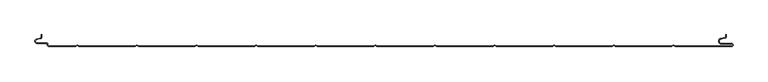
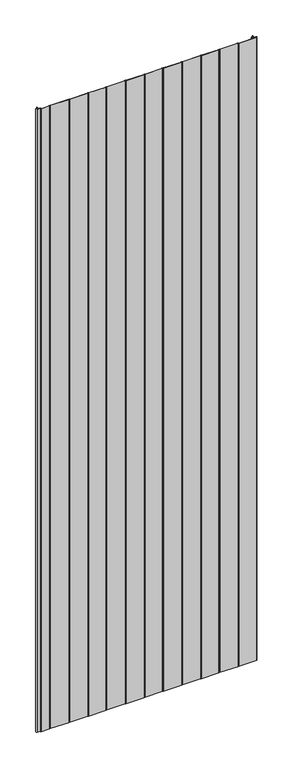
"""IFC4 building model written with IfcOpenShell, lengths in millimetres: plate geometry, PM1_Curtain-Panel_Perfil-Frigorífico : ACH_PM1_Panel-Acústico-Sectorización_60M."""

import ifcopenshell
import ifcopenshell.guid

model = None  # the IFC model being written
_history = None  # IfcOwnerHistory: only IFC2X3 demands one
_inside = {}  # id of a spatial element -> (the spatial element, [elements in it])
_under = {}  # id of a project, library or spatial element -> (it, [spatial elements below it])
_declared = {}  # id of a project -> (the project, [libraries it declares])
_typed = {}  # id of a type object -> (the type object, [elements of that type])
_made_of = {}  # id of a material, layer set ... -> (it, [elements and type objects made of it])


def new_model(schema):
    """Start an empty IFC model of exactly this schema.

    Asked for "IFC4X3", IfcOpenShell would pick the latest addendum, in which some entities
    have other attributes; the version numbers below select the first issue.
    IFC2X3 requires an IfcOwnerHistory on every rooted entity: one is made here for all.
    """
    global model, _history
    if schema == "IFC4X3":
        model = ifcopenshell.file(schema_version=(4, 3, 0, 0))
    else:
        model = ifcopenshell.file(schema=schema)
    _inside.clear()
    _under.clear()
    _declared.clear()
    _typed.clear()
    _made_of.clear()
    _history = None
    if model.schema == "IFC2X3":
        org = make("IfcOrganization", Name="unknown")
        user = make(
            "IfcPersonAndOrganization",
            ThePerson=make("IfcPerson", FamilyName="unknown"),
            TheOrganization=org,
        )
        app = make(
            "IfcApplication",
            ApplicationDeveloper=org,
            Version="unknown",
            ApplicationFullName="unknown",
            ApplicationIdentifier="unknown",
        )
        _history = make(
            "IfcOwnerHistory",
            OwningUser=user,
            OwningApplication=app,
            ChangeAction="ADDED",
            CreationDate=0,
        )
    return model


def make(cls, **values):
    """One entity of the class cls with the attributes given. An attribute that is None is left unset."""
    return model.create_entity(
        cls, **{name: value for name, value in values.items() if value is not None}
    )


def rooted(cls, **values):
    """An entity with a GlobalId (a new one), such as an element, a storey or a relation."""
    return make(cls, GlobalId=ifcopenshell.guid.new(), OwnerHistory=_history, **values)


def si_unit(unit_type, name, prefix=None):
    """IfcSIUnit, for example si_unit("LENGTHUNIT", "METRE", prefix="MILLI")."""
    return make("IfcSIUnit", UnitType=unit_type, Prefix=prefix, Name=name)


def assignment(units):
    """IfcUnitAssignment: the units of a project."""
    return None if units is None else make("IfcUnitAssignment", Units=units)


def point(xyz):
    """IfcCartesianPoint."""
    return None if xyz is None else make("IfcCartesianPoint", Coordinates=xyz)


def direction(xyz):
    """IfcDirection."""
    return None if xyz is None else make("IfcDirection", DirectionRatios=xyz)


def frame(location, z_axis=None, x_axis=None):
    """IfcAxis2Placement3D, a coordinate frame: its origin and axes. An axis left out is left unset."""
    return make(
        "IfcAxis2Placement3D",
        Location=point(location),
        Axis=direction(z_axis),
        RefDirection=direction(x_axis),
    )


def origin():
    """The frame at (0, 0, 0) with its axes left unset."""
    return frame((0.0, 0.0, 0.0))


def place(relative_to, where):
    """IfcLocalPlacement: puts the frame where relative to a parent placement (None: the world)."""
    return make(
        "IfcLocalPlacement", PlacementRelTo=relative_to, RelativePlacement=where
    )


def context(
    kind, dimensions, precision=None, world=None, true_north=None, identifier=None
):
    """IfcGeometricRepresentationContext, for example the 3D "Model" context."""
    return make(
        "IfcGeometricRepresentationContext",
        ContextIdentifier=identifier,
        ContextType=kind,
        CoordinateSpaceDimension=dimensions,
        Precision=precision,
        WorldCoordinateSystem=world,
        TrueNorth=true_north,
    )


def project(units=None, contexts=None):
    """IfcProject with its units and contexts."""
    return rooted(
        "IfcProject",
        Name="project",
        RepresentationContexts=contexts,
        UnitsInContext=assignment(units),
    )


def spatial(cls, under=None, at=None, **own):
    """A site, building, storey or space (cls), placed at a placement, below another one or the project."""
    s = rooted(cls, ObjectPlacement=at, **own)
    if under is not None:
        _under.setdefault(under.id(), (under, []))[1].append(s)
    return s


def polyline(points):
    """IfcPolyline through the points."""
    return make("IfcPolyline", Points=[point(p) for p in points])


def circle_curve(where, radius):
    """IfcCircle in the frame where."""
    return make("IfcCircle", Position=where, Radius=radius)


def shape(context_of_items, identifier, shape_type, items):
    """IfcShapeRepresentation: the items that make up one representation, for example the "Body"."""
    return make(
        "IfcShapeRepresentation",
        ContextOfItems=context_of_items,
        RepresentationIdentifier=identifier,
        RepresentationType=shape_type,
        Items=items,
    )


def source(mapping_origin, context_of_items, identifier, shape_type, items):
    """IfcRepresentationMap: a shape defined once, which mapped items show again and again."""
    return make(
        "IfcRepresentationMap",
        MappingOrigin=mapping_origin,
        MappedRepresentation=shape(context_of_items, identifier, shape_type, items),
    )


def transform(
    local_origin,
    x_axis=None,
    y_axis=None,
    z_axis=None,
    scale=None,
    scale2=None,
    scale3=None,
    uniform=True,
):
    """IfcCartesianTransformationOperator3D, or its non-uniform kind. x_axis, y_axis, z_axis: its Axis1, 2, 3."""
    if uniform:
        return make(
            "IfcCartesianTransformationOperator3D",
            Axis1=direction(x_axis),
            Axis2=direction(y_axis),
            LocalOrigin=point(local_origin),
            Scale=scale,
            Axis3=direction(z_axis),
        )
    return make(
        "IfcCartesianTransformationOperator3DnonUniform",
        Axis1=direction(x_axis),
        Axis2=direction(y_axis),
        LocalOrigin=point(local_origin),
        Scale=scale,
        Axis3=direction(z_axis),
        Scale2=scale2,
        Scale3=scale3,
    )


def mapped(mapping_source, mapping_target):
    """IfcMappedItem: shows the shape of a source again, moved by a transform."""
    return make(
        "IfcMappedItem", MappingSource=mapping_source, MappingTarget=mapping_target
    )


def made_of(thing, what):
    """Note that an element or type object is made of a material, layer set ...; save() writes the relation."""
    if what is not None:
        _made_of.setdefault(what.id(), (what, []))[1].append(thing)
    return thing


def element(
    cls,
    number,
    at=None,
    inside=None,
    cuts=None,
    type_object=None,
    material=None,
    context=None,
    identifier="Body",
    shape_type=None,
    held_by="IfcProductDefinitionShape",
    body=None,
    shapes=None,
    **own,
):
    """One element of the class cls, such as IfcWall. Its Tag is "e" and its number.

    at: its placement. inside: the storey or other place that contains it. cuts: it is an
    opening in that element (IfcRelVoidsElement). A single representation is given by context,
    identifier, shape_type and body (its items); several are given by shapes. held_by: the class
    of the entity that holds the representations. save() writes the other relations.
    """
    e = rooted(cls, Tag="e%d" % number, ObjectPlacement=at, **own)
    if body is not None:
        shapes = [shape(context, identifier, shape_type, body)]
    if shapes is not None:
        e.Representation = make(held_by, Representations=shapes)
    if inside is not None:
        _inside.setdefault(inside.id(), (inside, []))[1].append(e)
    if cuts is not None:
        rooted(
            "IfcRelVoidsElement", RelatingBuildingElement=cuts, RelatedOpeningElement=e
        )
    if type_object is not None:
        _typed.setdefault(type_object.id(), (type_object, []))[1].append(e)
    return made_of(e, material)


def aggregate(whole, parts):
    """IfcRelAggregates: a whole, such as a stair, and the parts it consists of."""
    return rooted("IfcRelAggregates", RelatingObject=whole, RelatedObjects=parts)


def save(model, path):
    """Write the relations noted so far, then the file.

    IfcRelAggregates (storeys below a building ...), IfcRelContainedInSpatialStructure (elements
    in a storey), IfcRelDefinesByType, IfcRelAssociatesMaterial and IfcRelDeclares: one each for
    every whole, place, type object, material and project.
    """
    for whole, parts in _under.values():
        aggregate(whole, parts)
    for where, things in _inside.values():
        rooted(
            "IfcRelContainedInSpatialStructure",
            RelatedElements=things,
            RelatingStructure=where,
        )
    for kind, things in _typed.values():
        rooted("IfcRelDefinesByType", RelatedObjects=things, RelatingType=kind)
    for what, things in _made_of.values():
        rooted("IfcRelAssociatesMaterial", RelatedObjects=things, RelatingMaterial=what)
    for by, libraries in _declared.values():
        rooted("IfcRelDeclares", RelatingContext=by, RelatedDefinitions=libraries)
    model.write(path)


def plane_surface(at):
    """IfcPlane: the flat surface through the origin of the frame at, square to its z axis."""
    return make("IfcPlane", Position=at)


def cylinder_surface(at, radius):
    """IfcCylindricalSurface: all points at the distance radius from the z axis of the frame at."""
    return make("IfcCylindricalSurface", Position=at, Radius=radius)


def revolved_surface(curve, axis_point, axis_direction):
    """IfcSurfaceOfRevolution: the curve turned about the line through axis_point along axis_direction."""
    return make(
        "IfcSurfaceOfRevolution",
        SweptCurve=make("IfcArbitraryOpenProfileDef", ProfileType="CURVE", Curve=curve),
        AxisPosition=make("IfcAxis1Placement", Location=point(axis_point), Axis=direction(axis_direction)),
    )


def advanced_brep(points, edges, surfaces, faces):
    """IfcAdvancedBrep: a solid bounded by faces that lie on surfaces and meet in shared edges.

    An edge is (start, end): straight between two places in points (the first is 0);
    or (start, end, curve); or (start, end, curve, False) where it runs against its curve.
    A face is (place in surfaces, loops), or (place, loops, False) where it looks against
    its surface's normal. A loop lists edges by number (the first is 1), with a minus sign
    where the edge is run from its end to its start. The first loop is the outer one.
    """
    corners = [point(p) for p in points]
    vertices = [make("IfcVertexPoint", VertexGeometry=c) for c in corners]
    made = []
    for start, end, *more in edges:
        made.append(
            make(
                "IfcEdgeCurve",
                EdgeStart=vertices[start],
                EdgeEnd=vertices[end],
                EdgeGeometry=more[0] if more else make("IfcPolyline", Points=[corners[start], corners[end]]),
                SameSense=more[1] if len(more) > 1 else True,
            )
        )
    hull = []
    for where, loops, *sense in faces:
        bounds = []
        for j, loop in enumerate(loops):
            ring = [make("IfcOrientedEdge", EdgeElement=made[abs(k) - 1], Orientation=k > 0) for k in loop]
            bounds.append(
                make(
                    "IfcFaceOuterBound" if j == 0 else "IfcFaceBound",
                    Bound=make("IfcEdgeLoop", EdgeList=ring),
                    Orientation=True,
                )
            )
        hull.append(make("IfcAdvancedFace", Bounds=bounds, FaceSurface=surfaces[where], SameSense=sense[0] if sense else True))
    return make("IfcAdvancedBrep", Outer=make("IfcClosedShell", CfsFaces=hull))


def plate_b0a39715(model_context):
    return source(origin(), model_context, "Body", "AdvancedBrep", [
        advanced_brep(
        [(-575.0, -44.121443, 3500.0), (-576.5500978, -46.0701831, 3500.0), (-582.7098239, -47.492268, 3500.0), (-581.9, -54.6, 3500.0), (-566.4, -54.6, 3500.0), (-564.4, -56.6, 3500.0), (-564.4, -58.0, 3500.0), (-562.4, -60.0, 3500.0), (-517.0999995, -60.0, 3500.0), (-514.4, -58.4411545, 3500.0), (-511.7000005, -60.0, 3500.0), (-417.0999995, -60.0, 3500.0), (-414.4, -58.4411545, 3500.0), (-411.7000005, -60.0, 3500.0), (-317.0999995, -60.0, 3500.0), (-314.4, -58.4411545, 3500.0), (-311.7000005, -60.0, 3500.0), (-217.0999995, -60.0, 3500.0), (-214.4, -58.4411545, 3500.0), (-211.7000005, -60.0, 3500.0), (-117.0999995, -60.0, 3500.0), (-114.4, -58.4411545, 3500.0), (-111.7000005, -60.0, 3500.0), (-17.0999995, -60.0, 3500.0), (-14.4, -58.4411545, 3500.0), (-11.7000005, -60.0, 3500.0), (82.9000005, -60.0, 3500.0), (85.6, -58.4411545, 3500.0), (88.2999995, -60.0, 3500.0), (182.9000005, -60.0, 3500.0), (185.6, -58.4411545, 3500.0), (188.2999995, -60.0, 3500.0), (282.9000005, -60.0, 3500.0), (285.6, -58.4411545, 3500.0), (288.2999995, -60.0, 3500.0), (382.9000005, -60.0, 3500.0), (385.6, -58.4411545, 3500.0), (388.2999995, -60.0, 3500.0), (482.9000005, -60.0, 3500.0), (485.6, -58.4411545, 3500.0), (488.2999995, -60.0, 3500.0), (583.1, -60.0, 3500.0), (585.6, -57.5, 3500.0), (583.1, -55.0, 3500.0), (566.1, -55.0, 3500.0), (565.405407, -47.060769, 3500.0), (571.8514855, -45.9241509, 3500.0), (574.0, -43.3636508, 3500.0), (574.0, -40.0, 3500.0), (573.2, -40.0, 3500.0), (573.2, -43.3636508, 3500.0), (571.7125669, -45.1363047, 3500.0), (565.2664884, -46.2729228, 3500.0), (566.1, -55.8, 3500.0), (583.1, -55.8, 3500.0), (583.1, -59.2, 3500.0), (488.5143588, -59.2, 3500.0), (485.6, -57.517394, 3500.0), (482.6856412, -59.2, 3500.0), (388.5143588, -59.2, 3500.0), (385.6, -57.517394, 3500.0), (382.6856412, -59.2, 3500.0), (288.5143588, -59.2, 3500.0), (285.6, -57.517394, 3500.0), (282.6856412, -59.2, 3500.0), (188.5143588, -59.2, 3500.0), (185.6, -57.517394, 3500.0), (182.6856412, -59.2, 3500.0), (88.5143588, -59.2, 3500.0), (85.6, -57.517394, 3500.0), (82.6856412, -59.2, 3500.0), (-11.4856412, -59.2, 3500.0), (-14.4, -57.517394, 3500.0), (-17.3143588, -59.2, 3500.0), (-111.4856412, -59.2, 3500.0), (-114.4, -57.517394, 3500.0), (-117.3143588, -59.2, 3500.0), (-211.4856412, -59.2, 3500.0), (-214.4, -57.517394, 3500.0), (-217.3143588, -59.2, 3500.0), (-311.4856412, -59.2, 3500.0), (-314.4, -57.517394, 3500.0), (-317.3143588, -59.2, 3500.0), (-411.4856412, -59.2, 3500.0), (-414.4, -57.517394, 3500.0), (-417.3143588, -59.2, 3500.0), (-511.4856412, -59.2, 3500.0), (-514.4, -57.517394, 3500.0), (-517.3143588, -59.2, 3500.0), (-562.4, -59.2, 3500.0), (-563.6, -58.0, 3500.0), (-563.6, -56.6, 3500.0), (-566.4, -53.8, 3500.0), (-581.9, -53.8, 3500.0), (-582.529863, -48.2717638, 3500.0), (-576.370137, -46.849679, 3500.0), (-574.2, -44.121443, 3500.0), (-574.2, -40.0, 3500.0), (-575.0, -40.0, 3500.0), (-575.0, -44.121443, 0.0), (-575.0, -40.0, 0.0), (-574.2, -40.0, 0.0), (-574.2, -44.121443, 0.0), (-576.370137, -46.8496792, 0.0), (-582.529863, -48.271764, 0.0), (-581.9, -53.8, 0.0), (-566.4, -53.8, 0.0), (-563.6, -56.6, 0.0), (-563.6, -58.0, 0.0), (-562.4, -59.2, 0.0), (-517.3143588, -59.2, 0.0), (-514.4, -57.517394, 0.0), (-511.4856412, -59.2, 0.0), (-417.3143588, -59.2, 0.0), (-414.4, -57.517394, 0.0), (-411.4856412, -59.2, 0.0), (-317.3143588, -59.2, 0.0), (-314.4, -57.517394, 0.0), (-311.4856412, -59.2, 0.0), (-217.3143588, -59.2, 0.0), (-214.4, -57.517394, 0.0), (-211.4856412, -59.2, 0.0), (-117.3143588, -59.2, 0.0), (-114.4, -57.517394, 0.0), (-111.4856412, -59.2, 0.0), (-17.3143588, -59.2, 0.0), (-14.4, -57.517394, 0.0), (-11.4856412, -59.2, 0.0), (82.6856412, -59.2, 0.0), (85.6, -57.517394, 0.0), (88.5143588, -59.2, 0.0), (182.6856412, -59.2, 0.0), (185.6, -57.517394, 0.0), (188.5143588, -59.2, 0.0), (282.6856412, -59.2, 0.0), (285.6, -57.517394, 0.0), (288.5143588, -59.2, 0.0), (382.6856412, -59.2, 0.0), (385.6, -57.517394, 0.0), (388.5143588, -59.2, 0.0), (482.6856412, -59.2, 0.0), (485.6, -57.517394, 0.0), (488.5143588, -59.2, 0.0), (583.1, -59.2, 0.0), (583.1, -55.8, 0.0), (566.1, -55.8, 0.0), (565.2664884, -46.2729229, 0.0), (571.7125669, -45.1363047, 0.0), (573.2, -43.3636508, 0.0), (573.2, -40.0, 0.0), (574.0, -40.0, 0.0), (574.0, -43.3636508, 0.0), (571.8514855, -45.9241509, 0.0), (565.405407, -47.060769, 0.0), (566.1, -55.0, 0.0), (583.1, -55.0, 0.0), (585.6, -57.5, 0.0), (583.1, -60.0, 0.0), (488.2999995, -60.0, 0.0), (485.6, -58.4411545, 0.0), (482.9000005, -60.0, 0.0), (388.2999995, -60.0, 0.0), (385.6, -58.4411545, 0.0), (382.9000005, -60.0, 0.0), (288.2999995, -60.0, 0.0), (285.6, -58.4411545, 0.0), (282.9000005, -60.0, 0.0), (188.2999995, -60.0, 0.0), (185.6, -58.4411545, 0.0), (182.9000005, -60.0, 0.0), (88.2999995, -60.0, 0.0), (85.6, -58.4411545, 0.0), (82.9000005, -60.0, 0.0), (-11.7000005, -60.0, 0.0), (-14.4, -58.4411545, 0.0), (-17.0999995, -60.0, 0.0), (-111.7000005, -60.0, 0.0), (-114.4, -58.4411545, 0.0), (-117.0999995, -60.0, 0.0), (-211.7000005, -60.0, 0.0), (-214.4, -58.4411545, 0.0), (-217.0999995, -60.0, 0.0), (-311.7000005, -60.0, 0.0), (-314.4, -58.4411545, 0.0), (-317.0999995, -60.0, 0.0), (-411.7000005, -60.0, 0.0), (-414.4, -58.4411545, 0.0), (-417.0999995, -60.0, 0.0), (-511.7000005, -60.0, 0.0), (-514.4, -58.4411545, 0.0), (-517.0999995, -60.0, 0.0), (-562.4, -60.0, 0.0), (-564.4, -58.0, 0.0), (-564.4, -56.6, 0.0), (-566.4, -54.6, 0.0), (-581.9, -54.6, 0.0), (-582.7098239, -47.4922678, 0.0), (-576.5500979, -46.070183, 0.0)],
        [
            (0, 1, circle_curve(frame((-577.0, -44.121443, 3500.0), z_axis=(0.0, 0.0, -1.0), x_axis=(1.0, 0.0, 0.0)), 2.0)),
            (1, 2),
            (2, 3, circle_curve(frame((-581.9, -51.0, 3500.0), z_axis=(0.0, 0.0, 1.0), x_axis=(1.0, 0.0, 0.0)), 3.6)),
            (3, 4),
            (4, 5, circle_curve(frame((-566.4, -56.6, 3500.0), z_axis=(0.0, 0.0, -1.0), x_axis=(1.0, 0.0, 0.0)), 2.0)),
            (5, 6),
            (6, 7, circle_curve(frame((-562.4, -58.0, 3500.0), z_axis=(0.0, 0.0, 1.0), x_axis=(1.0, 0.0, 0.0)), 2.0)),
            (7, 8),
            (8, 9),
            (9, 10),
            (10, 11),
            (11, 12),
            (12, 13),
            (13, 14),
            (14, 15),
            (15, 16),
            (16, 17),
            (17, 18),
            (18, 19),
            (19, 20),
            (20, 21),
            (21, 22),
            (22, 23),
            (23, 24),
            (24, 25),
            (25, 26),
            (26, 27),
            (27, 28),
            (28, 29),
            (29, 30),
            (30, 31),
            (31, 32),
            (32, 33),
            (33, 34),
            (34, 35),
            (35, 36),
            (36, 37),
            (37, 38),
            (38, 39),
            (39, 40),
            (40, 41),
            (41, 42, circle_curve(frame((583.1, -57.5, 3500.0), z_axis=(0.0, 0.0, 1.0), x_axis=(1.0, 0.0, 0.0)), 2.5)),
            (42, 43, circle_curve(frame((583.1, -57.5, 3500.0), z_axis=(0.0, 0.0, 1.0), x_axis=(1.0, 0.0, 0.0)), 2.5)),
            (43, 44),
            (44, 45, circle_curve(frame((566.1, -51.0, 3500.0), z_axis=(0.0, 0.0, -1.0), x_axis=(1.0, 0.0, 0.0)), 4.0)),
            (45, 46),
            (46, 47, circle_curve(frame((571.4, -43.3636508, 3500.0), z_axis=(0.0, 0.0, 1.0), x_axis=(1.0, 0.0, 0.0)), 2.6)),
            (47, 48),
            (48, 49),
            (49, 50),
            (50, 51, circle_curve(frame((571.4, -43.3636508, 3500.0), z_axis=(0.0, 0.0, -1.0), x_axis=(1.0, 0.0, 0.0)), 1.8)),
            (51, 52),
            (52, 53, circle_curve(frame((566.1, -51.0, 3500.0), z_axis=(0.0, 0.0, 1.0), x_axis=(1.0, 0.0, 0.0)), 4.8)),
            (53, 54),
            (54, 55, circle_curve(frame((583.1, -57.5, 3500.0), z_axis=(0.0, 0.0, -1.0), x_axis=(1.0, 0.0, 0.0)), 1.7)),
            (55, 56),
            (56, 57),
            (57, 58),
            (58, 59),
            (59, 60),
            (60, 61),
            (61, 62),
            (62, 63),
            (63, 64),
            (64, 65),
            (65, 66),
            (66, 67),
            (67, 68),
            (68, 69),
            (69, 70),
            (70, 71),
            (71, 72),
            (72, 73),
            (73, 74),
            (74, 75),
            (75, 76),
            (76, 77),
            (77, 78),
            (78, 79),
            (79, 80),
            (80, 81),
            (81, 82),
            (82, 83),
            (83, 84),
            (84, 85),
            (85, 86),
            (86, 87),
            (87, 88),
            (88, 89),
            (89, 90, circle_curve(frame((-562.4, -58.0, 3500.0), z_axis=(0.0, 0.0, -1.0), x_axis=(1.0, 0.0, 0.0)), 1.2)),
            (90, 91),
            (91, 92, circle_curve(frame((-566.4, -56.6, 3500.0), z_axis=(0.0, 0.0, 1.0), x_axis=(1.0, 0.0, 0.0)), 2.8)),
            (92, 93),
            (93, 94, circle_curve(frame((-581.9, -51.0, 3500.0), z_axis=(0.0, 0.0, -1.0), x_axis=(1.0, 0.0, 0.0)), 2.8)),
            (94, 95),
            (95, 96, circle_curve(frame((-577.0, -44.121443, 3500.0), z_axis=(0.0, 0.0, 1.0), x_axis=(1.0, 0.0, 0.0)), 2.8)),
            (96, 97),
            (97, 98),
            (98, 0),
            (99, 100),
            (100, 101),
            (101, 102),
            (102, 103, circle_curve(frame((-577.0, -44.121443, 0.0), z_axis=(0.0, 0.0, -1.0), x_axis=(1.0, 0.0, 0.0)), 2.8)),
            (103, 104),
            (104, 105, circle_curve(frame((-581.9, -51.0, 0.0), z_axis=(0.0, 0.0, 1.0), x_axis=(1.0, 0.0, 0.0)), 2.8)),
            (105, 106),
            (106, 107, circle_curve(frame((-566.4, -56.6, 0.0), z_axis=(0.0, 0.0, -1.0), x_axis=(1.0, 0.0, 0.0)), 2.8)),
            (107, 108),
            (108, 109, circle_curve(frame((-562.4, -58.0, 0.0), z_axis=(0.0, 0.0, 1.0), x_axis=(1.0, 0.0, 0.0)), 1.2)),
            (109, 110),
            (110, 111),
            (111, 112),
            (112, 113),
            (113, 114),
            (114, 115),
            (115, 116),
            (116, 117),
            (117, 118),
            (118, 119),
            (119, 120),
            (120, 121),
            (121, 122),
            (122, 123),
            (123, 124),
            (124, 125),
            (125, 126),
            (126, 127),
            (127, 128),
            (128, 129),
            (129, 130),
            (130, 131),
            (131, 132),
            (132, 133),
            (133, 134),
            (134, 135),
            (135, 136),
            (136, 137),
            (137, 138),
            (138, 139),
            (139, 140),
            (140, 141),
            (141, 142),
            (142, 143),
            (143, 144, circle_curve(frame((583.1, -57.5, 0.0), z_axis=(0.0, 0.0, 1.0), x_axis=(1.0, 0.0, 0.0)), 1.7)),
            (144, 145),
            (145, 146, circle_curve(frame((566.1, -51.0, 0.0), z_axis=(0.0, 0.0, -1.0), x_axis=(1.0, 0.0, 0.0)), 4.8)),
            (146, 147),
            (147, 148, circle_curve(frame((571.4, -43.3636508, 0.0), z_axis=(0.0, 0.0, 1.0), x_axis=(1.0, 0.0, 0.0)), 1.8)),
            (148, 149),
            (149, 150),
            (150, 151),
            (151, 152, circle_curve(frame((571.4, -43.3636508, 0.0), z_axis=(0.0, 0.0, -1.0), x_axis=(1.0, 0.0, 0.0)), 2.6)),
            (152, 153),
            (153, 154, circle_curve(frame((566.1, -51.0, 0.0), z_axis=(0.0, 0.0, 1.0), x_axis=(1.0, 0.0, 0.0)), 4.0)),
            (154, 155),
            (155, 156, circle_curve(frame((583.1, -57.5, 0.0), z_axis=(0.0, 0.0, -1.0), x_axis=(1.0, 0.0, 0.0)), 2.5)),
            (156, 157, circle_curve(frame((583.1, -57.5, 0.0), z_axis=(0.0, 0.0, -1.0), x_axis=(1.0, 0.0, 0.0)), 2.5)),
            (157, 158),
            (158, 159),
            (159, 160),
            (160, 161),
            (161, 162),
            (162, 163),
            (163, 164),
            (164, 165),
            (165, 166),
            (166, 167),
            (167, 168),
            (168, 169),
            (169, 170),
            (170, 171),
            (171, 172),
            (172, 173),
            (173, 174),
            (174, 175),
            (175, 176),
            (176, 177),
            (177, 178),
            (178, 179),
            (179, 180),
            (180, 181),
            (181, 182),
            (182, 183),
            (183, 184),
            (184, 185),
            (185, 186),
            (186, 187),
            (187, 188),
            (188, 189),
            (189, 190),
            (190, 191),
            (191, 192, circle_curve(frame((-562.4, -58.0, 0.0), z_axis=(0.0, 0.0, -1.0), x_axis=(1.0, 0.0, 0.0)), 2.0)),
            (192, 193),
            (193, 194, circle_curve(frame((-566.4, -56.6, 0.0), z_axis=(0.0, 0.0, 1.0), x_axis=(1.0, 0.0, 0.0)), 2.0)),
            (194, 195),
            (195, 196, circle_curve(frame((-581.9, -51.0, 0.0), z_axis=(0.0, 0.0, -1.0), x_axis=(1.0, 0.0, 0.0)), 3.6)),
            (196, 197),
            (197, 99, circle_curve(frame((-577.0, -44.121443, 0.0), z_axis=(0.0, 0.0, 1.0), x_axis=(1.0, 0.0, 0.0)), 2.0)),
            (0, 99),
            (197, 1),
            (196, 2),
            (195, 3),
            (194, 4),
            (193, 5),
            (192, 6),
            (191, 7),
            (190, 8),
            (189, 9),
            (188, 10),
            (187, 11),
            (186, 12),
            (185, 13),
            (184, 14),
            (183, 15),
            (182, 16),
            (181, 17),
            (180, 18),
            (179, 19),
            (178, 20),
            (177, 21),
            (176, 22),
            (175, 23),
            (174, 24),
            (173, 25),
            (172, 26),
            (171, 27),
            (170, 28),
            (169, 29),
            (168, 30),
            (167, 31),
            (166, 32),
            (165, 33),
            (164, 34),
            (163, 35),
            (162, 36),
            (161, 37),
            (160, 38),
            (159, 39),
            (158, 40),
            (157, 41),
            (155, 43),
            (154, 44),
            (153, 45),
            (152, 46),
            (151, 47),
            (150, 48),
            (149, 49),
            (148, 50),
            (147, 51),
            (146, 52),
            (145, 53),
            (144, 54),
            (143, 55),
            (142, 56),
            (141, 57),
            (140, 58),
            (139, 59),
            (138, 60),
            (137, 61),
            (136, 62),
            (135, 63),
            (134, 64),
            (133, 65),
            (132, 66),
            (131, 67),
            (130, 68),
            (129, 69),
            (128, 70),
            (127, 71),
            (126, 72),
            (125, 73),
            (124, 74),
            (123, 75),
            (122, 76),
            (121, 77),
            (120, 78),
            (119, 79),
            (118, 80),
            (117, 81),
            (116, 82),
            (115, 83),
            (114, 84),
            (113, 85),
            (112, 86),
            (111, 87),
            (110, 88),
            (109, 89),
            (108, 90),
            (107, 91),
            (106, 92),
            (105, 93),
            (104, 94),
            (103, 95),
            (102, 96),
            (101, 97),
            (100, 98),
        ],
        [
            plane_surface(frame((-575.0, -60.0, 3500.0), z_axis=(0.0, 0.0, 1.0), x_axis=(0.0, 1.0, 0.0))),
            plane_surface(frame((-575.0, -60.0, 0.0), z_axis=(0.0, 0.0, -1.0), x_axis=(0.0, 1.0, 0.0))),
            revolved_surface(polyline([(-575.0, -44.121443, 0.0), (-575.0, -44.121443, 3500.0)]), (-577.0, -44.121443, 3500.0), (0.0, 0.0, -1.0)),
            plane_surface(frame((-576.5500979, -46.070183, 3500.0), z_axis=(-0.22495108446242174, 0.9743700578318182, 0.0), x_axis=(0.0, 0.0, -1.0))),
            cylinder_surface(frame((-581.9, -51.0, 3500.0), z_axis=(0.0, 0.0, 1.0), x_axis=(1.0, 0.0, 0.0)), 3.6),
            plane_surface(frame((-581.9, -54.6, 3500.0), z_axis=(0.0, -1.0, 0.0), x_axis=(0.0, 0.0, -1.0))),
            revolved_surface(polyline([(-564.4, -56.6, 0.0), (-564.4, -56.6, 3500.0)]), (-566.4, -56.6, 3500.0), (0.0, 0.0, -1.0)),
            plane_surface(frame((-564.4, -56.6, 3500.0), z_axis=(-1.0, 0.0, 0.0), x_axis=(0.0, 0.0, -1.0))),
            cylinder_surface(frame((-562.4, -58.0, 3500.0), z_axis=(0.0, 0.0, 1.0), x_axis=(1.0, 0.0, 0.0)), 2.0),
            plane_surface(frame((-562.4, -60.0, 3500.0), z_axis=(0.0, -1.0, 0.0), x_axis=(0.0, 0.0, -1.0))),
            plane_surface(frame((-517.0999995, -60.0, 3500.0), z_axis=(0.5000000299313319, -0.8660253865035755, 0.0), x_axis=(0.0, 0.0, -1.0))),
            plane_surface(frame((-514.4, -58.4411545, 3500.0), z_axis=(-0.5000000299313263, -0.8660253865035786, 0.0), x_axis=(0.0, 0.0, -1.0))),
            plane_surface(frame((-511.7000005, -60.0, 3500.0), z_axis=(0.0, -1.0, 0.0), x_axis=(0.0, 0.0, -1.0))),
            plane_surface(frame((-417.0999995, -60.0, 3500.0), z_axis=(0.5000000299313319, -0.8660253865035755, 0.0), x_axis=(0.0, 0.0, -1.0))),
            plane_surface(frame((-414.4, -58.4411545, 3500.0), z_axis=(-0.5000000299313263, -0.8660253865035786, 0.0), x_axis=(0.0, 0.0, -1.0))),
            plane_surface(frame((-411.7000005, -60.0, 3500.0), z_axis=(0.0, -1.0, 0.0), x_axis=(0.0, 0.0, -1.0))),
            plane_surface(frame((-317.0999995, -60.0, 3500.0), z_axis=(0.5000000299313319, -0.8660253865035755, 0.0), x_axis=(0.0, 0.0, -1.0))),
            plane_surface(frame((-314.4, -58.4411545, 3500.0), z_axis=(-0.5000000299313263, -0.8660253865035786, 0.0), x_axis=(0.0, 0.0, -1.0))),
            plane_surface(frame((-311.7000005, -60.0, 3500.0), z_axis=(0.0, -1.0, 0.0), x_axis=(0.0, 0.0, -1.0))),
            plane_surface(frame((-217.0999995, -60.0, 3500.0), z_axis=(0.5000000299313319, -0.8660253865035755, 0.0), x_axis=(0.0, 0.0, -1.0))),
            plane_surface(frame((-214.4, -58.4411545, 3500.0), z_axis=(-0.5000000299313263, -0.8660253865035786, 0.0), x_axis=(0.0, 0.0, -1.0))),
            plane_surface(frame((-211.7000005, -60.0, 3500.0), z_axis=(0.0, -1.0, 0.0), x_axis=(0.0, 0.0, -1.0))),
            plane_surface(frame((-117.0999995, -60.0, 3500.0), z_axis=(0.5000000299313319, -0.8660253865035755, 0.0), x_axis=(0.0, 0.0, -1.0))),
            plane_surface(frame((-114.4, -58.4411545, 3500.0), z_axis=(-0.5000000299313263, -0.8660253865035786, 0.0), x_axis=(0.0, 0.0, -1.0))),
            plane_surface(frame((-111.7000005, -60.0, 3500.0), z_axis=(0.0, -1.0, 0.0), x_axis=(0.0, 0.0, -1.0))),
            plane_surface(frame((-17.0999995, -60.0, 3500.0), z_axis=(0.5000000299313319, -0.8660253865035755, 0.0), x_axis=(0.0, 0.0, -1.0))),
            plane_surface(frame((-14.4, -58.4411545, 3500.0), z_axis=(-0.5000000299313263, -0.8660253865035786, 0.0), x_axis=(0.0, 0.0, -1.0))),
            plane_surface(frame((-11.7000005, -60.0, 3500.0), z_axis=(0.0, -1.0, 0.0), x_axis=(0.0, 0.0, -1.0))),
            plane_surface(frame((82.9000005, -60.0, 3500.0), z_axis=(0.5000000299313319, -0.8660253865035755, 0.0), x_axis=(0.0, 0.0, -1.0))),
            plane_surface(frame((85.6, -58.4411545, 3500.0), z_axis=(-0.5000000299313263, -0.8660253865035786, 0.0), x_axis=(0.0, 0.0, -1.0))),
            plane_surface(frame((88.2999995, -60.0, 3500.0), z_axis=(0.0, -1.0, 0.0), x_axis=(0.0, 0.0, -1.0))),
            plane_surface(frame((182.9000005, -60.0, 3500.0), z_axis=(0.5000000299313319, -0.8660253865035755, 0.0), x_axis=(0.0, 0.0, -1.0))),
            plane_surface(frame((185.6, -58.4411545, 3500.0), z_axis=(-0.5000000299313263, -0.8660253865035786, 0.0), x_axis=(0.0, 0.0, -1.0))),
            plane_surface(frame((188.2999995, -60.0, 3500.0), z_axis=(0.0, -1.0, 0.0), x_axis=(0.0, 0.0, -1.0))),
            plane_surface(frame((282.9000005, -60.0, 3500.0), z_axis=(0.5000000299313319, -0.8660253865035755, 0.0), x_axis=(0.0, 0.0, -1.0))),
            plane_surface(frame((285.6, -58.4411545, 3500.0), z_axis=(-0.5000000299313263, -0.8660253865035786, 0.0), x_axis=(0.0, 0.0, -1.0))),
            plane_surface(frame((288.2999995, -60.0, 3500.0), z_axis=(0.0, -1.0, 0.0), x_axis=(0.0, 0.0, -1.0))),
            plane_surface(frame((382.9000005, -60.0, 3500.0), z_axis=(0.5000000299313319, -0.8660253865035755, 0.0), x_axis=(0.0, 0.0, -1.0))),
            plane_surface(frame((385.6, -58.4411545, 3500.0), z_axis=(-0.5000000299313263, -0.8660253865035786, 0.0), x_axis=(0.0, 0.0, -1.0))),
            plane_surface(frame((388.2999995, -60.0, 3500.0), z_axis=(0.0, -1.0, 0.0), x_axis=(0.0, 0.0, -1.0))),
            plane_surface(frame((482.9000005, -60.0, 3500.0), z_axis=(0.5000000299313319, -0.8660253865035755, 0.0), x_axis=(0.0, 0.0, -1.0))),
            plane_surface(frame((485.6, -58.4411545, 3500.0), z_axis=(-0.5000000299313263, -0.8660253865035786, 0.0), x_axis=(0.0, 0.0, -1.0))),
            plane_surface(frame((535.6, -60.0, 3500.0), z_axis=(0.0, -1.0, 0.0), x_axis=(0.0, 0.0, -1.0))),
            cylinder_surface(frame((583.1, -57.5, 3500.0), z_axis=(0.0, 0.0, 1.0), x_axis=(1.0, 0.0, 0.0)), 2.5),
            plane_surface(frame((583.1, -55.0, 3500.0), z_axis=(0.0, 1.0, 0.0), x_axis=(0.0, 0.0, -1.0))),
            revolved_surface(polyline([(570.1, -51.0, 0.0), (570.1, -51.0, 3500.0)]), (566.1, -51.0, 3500.0), (0.0, 0.0, -1.0)),
            plane_surface(frame((565.405407, -47.060769, 3500.0), z_axis=(0.17364825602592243, -0.9848077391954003, 0.0), x_axis=(0.0, 0.0, -1.0))),
            cylinder_surface(frame((571.4, -43.3636508, 3500.0), z_axis=(0.0, 0.0, 1.0), x_axis=(1.0, 0.0, 0.0)), 2.6),
            plane_surface(frame((574.0, -43.3636508, 3500.0), z_axis=(1.0, 0.0, 0.0), x_axis=(0.0, 0.0, -1.0))),
            plane_surface(frame((574.0, -40.0, 3500.0), z_axis=(0.0, 1.0, 0.0), x_axis=(0.0, 0.0, -1.0))),
            plane_surface(frame((573.2, -40.0, 3500.0), z_axis=(-1.0, 0.0, 0.0), x_axis=(0.0, 0.0, -1.0))),
            revolved_surface(polyline([(573.1999999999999, -43.3636508, 0.0), (573.1999999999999, -43.3636508, 3500.0)]), (571.4, -43.3636508, 3500.0), (0.0, 0.0, -1.0)),
            plane_surface(frame((571.7125669, -45.1363047, 3500.0), z_axis=(-0.17364825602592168, 0.9848077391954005, 0.0), x_axis=(0.0, 0.0, -1.0))),
            cylinder_surface(frame((566.1, -51.0, 3500.0), z_axis=(0.0, 0.0, 1.0), x_axis=(1.0, 0.0, 0.0)), 4.8),
            plane_surface(frame((566.1, -55.8, 3500.0), z_axis=(0.0, -1.0, 0.0), x_axis=(0.0, 0.0, -1.0))),
            revolved_surface(polyline([(584.8000000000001, -57.5, 0.0), (584.8000000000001, -57.5, 3500.0)]), (583.1, -57.5, 3500.0), (0.0, 0.0, -1.0)),
            plane_surface(frame((535.6, -59.2, 3500.0), z_axis=(0.0, 1.0, 0.0), x_axis=(0.0, 0.0, -1.0))),
            plane_surface(frame((488.5143588, -59.2, 3500.0), z_axis=(0.5000000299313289, 0.8660253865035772, 0.0), x_axis=(0.0, 0.0, -1.0))),
            plane_surface(frame((485.6, -57.517394, 3500.0), z_axis=(-0.5000000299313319, 0.8660253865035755, 0.0), x_axis=(0.0, 0.0, -1.0))),
            plane_surface(frame((482.6856412, -59.2, 3500.0), z_axis=(0.0, 1.0, 0.0), x_axis=(0.0, 0.0, -1.0))),
            plane_surface(frame((388.5143588, -59.2, 3500.0), z_axis=(0.5000000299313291, 0.8660253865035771, 0.0), x_axis=(0.0, 0.0, -1.0))),
            plane_surface(frame((385.6, -57.517394, 3500.0), z_axis=(-0.500000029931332, 0.8660253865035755, 0.0), x_axis=(0.0, 0.0, -1.0))),
            plane_surface(frame((382.6856412, -59.2, 3500.0), z_axis=(0.0, 1.0, 0.0), x_axis=(0.0, 0.0, -1.0))),
            plane_surface(frame((288.5143588, -59.2, 3500.0), z_axis=(0.5000000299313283, 0.8660253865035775, 0.0), x_axis=(0.0, 0.0, -1.0))),
            plane_surface(frame((285.6, -57.517394, 3500.0), z_axis=(-0.5000000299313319, 0.8660253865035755, 0.0), x_axis=(0.0, 0.0, -1.0))),
            plane_surface(frame((282.6856412, -59.2, 3500.0), z_axis=(0.0, 1.0, 0.0), x_axis=(0.0, 0.0, -1.0))),
            plane_surface(frame((188.5143588, -59.2, 3500.0), z_axis=(0.5000000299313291, 0.8660253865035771, 0.0), x_axis=(0.0, 0.0, -1.0))),
            plane_surface(frame((185.6, -57.517394, 3500.0), z_axis=(-0.5000000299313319, 0.8660253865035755, 0.0), x_axis=(0.0, 0.0, -1.0))),
            plane_surface(frame((182.6856412, -59.2, 3500.0), z_axis=(0.0, 1.0, 0.0), x_axis=(0.0, 0.0, -1.0))),
            plane_surface(frame((88.5143588, -59.2, 3500.0), z_axis=(0.5000000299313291, 0.8660253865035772, 0.0), x_axis=(0.0, 0.0, -1.0))),
            plane_surface(frame((85.6, -57.517394, 3500.0), z_axis=(-0.5000000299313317, 0.8660253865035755, 0.0), x_axis=(0.0, 0.0, -1.0))),
            plane_surface(frame((82.6856412, -59.2, 3500.0), z_axis=(0.0, 1.0, 0.0), x_axis=(0.0, 0.0, -1.0))),
            plane_surface(frame((-11.4856412, -59.2, 3500.0), z_axis=(0.500000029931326, 0.8660253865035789, 0.0), x_axis=(0.0, 0.0, -1.0))),
            plane_surface(frame((-14.4, -57.517394, 3500.0), z_axis=(-0.500000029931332, 0.8660253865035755, 0.0), x_axis=(0.0, 0.0, -1.0))),
            plane_surface(frame((-17.3143588, -59.2, 3500.0), z_axis=(0.0, 1.0, 0.0), x_axis=(0.0, 0.0, -1.0))),
            plane_surface(frame((-111.4856412, -59.2, 3500.0), z_axis=(0.5000000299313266, 0.8660253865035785, 0.0), x_axis=(0.0, 0.0, -1.0))),
            plane_surface(frame((-114.4, -57.517394, 3500.0), z_axis=(-0.5000000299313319, 0.8660253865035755, 0.0), x_axis=(0.0, 0.0, -1.0))),
            plane_surface(frame((-117.3143588, -59.2, 3500.0), z_axis=(0.0, 1.0, 0.0), x_axis=(0.0, 0.0, -1.0))),
            plane_surface(frame((-211.4856412, -59.2, 3500.0), z_axis=(0.5000000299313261, 0.8660253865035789, 0.0), x_axis=(0.0, 0.0, -1.0))),
            plane_surface(frame((-214.4, -57.517394, 3500.0), z_axis=(-0.500000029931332, 0.8660253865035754, 0.0), x_axis=(0.0, 0.0, -1.0))),
            plane_surface(frame((-217.3143588, -59.2, 3500.0), z_axis=(0.0, 1.0, 0.0), x_axis=(0.0, 0.0, -1.0))),
            plane_surface(frame((-311.4856412, -59.2, 3500.0), z_axis=(0.5000000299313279, 0.8660253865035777, 0.0), x_axis=(0.0, 0.0, -1.0))),
            plane_surface(frame((-314.4, -57.517394, 3500.0), z_axis=(-0.5000000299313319, 0.8660253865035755, 0.0), x_axis=(0.0, 0.0, -1.0))),
            plane_surface(frame((-317.3143588, -59.2, 3500.0), z_axis=(0.0, 1.0, 0.0), x_axis=(0.0, 0.0, -1.0))),
            plane_surface(frame((-411.4856412, -59.2, 3500.0), z_axis=(0.5000000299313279, 0.8660253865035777, 0.0), x_axis=(0.0, 0.0, -1.0))),
            plane_surface(frame((-414.4, -57.517394, 3500.0), z_axis=(-0.5000000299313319, 0.8660253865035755, 0.0), x_axis=(0.0, 0.0, -1.0))),
            plane_surface(frame((-417.3143588, -59.2, 3500.0), z_axis=(0.0, 1.0, 0.0), x_axis=(0.0, 0.0, -1.0))),
            plane_surface(frame((-511.4856412, -59.2, 3500.0), z_axis=(0.5000000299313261, 0.8660253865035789, 0.0), x_axis=(0.0, 0.0, -1.0))),
            plane_surface(frame((-514.4, -57.517394, 3500.0), z_axis=(-0.5000000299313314, 0.8660253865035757, 0.0), x_axis=(0.0, 0.0, -1.0))),
            plane_surface(frame((-517.3143588, -59.2, 3500.0), z_axis=(0.0, 1.0, 0.0), x_axis=(0.0, 0.0, -1.0))),
            revolved_surface(polyline([(-561.1999999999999, -58.0, 0.0), (-561.1999999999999, -58.0, 3500.0)]), (-562.4, -58.0, 3500.0), (0.0, 0.0, -1.0)),
            plane_surface(frame((-563.6, -58.0, 3500.0), z_axis=(1.0, 0.0, 0.0), x_axis=(0.0, 0.0, -1.0))),
            cylinder_surface(frame((-566.4, -56.6, 3500.0), z_axis=(0.0, 0.0, 1.0), x_axis=(1.0, 0.0, 0.0)), 2.8),
            plane_surface(frame((-566.4, -53.8, 3500.0), z_axis=(0.0, 1.0, 0.0), x_axis=(0.0, 0.0, -1.0))),
            revolved_surface(polyline([(-579.1, -51.0, 0.0), (-579.1, -51.0, 3500.0)]), (-581.9, -51.0, 3500.0), (0.0, 0.0, -1.0)),
            plane_surface(frame((-582.529863, -48.271764, 3500.0), z_axis=(0.22495108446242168, -0.9743700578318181, 0.0), x_axis=(0.0, 0.0, -1.0))),
            cylinder_surface(frame((-577.0, -44.121443, 3500.0), z_axis=(0.0, 0.0, 1.0), x_axis=(1.0, 0.0, 0.0)), 2.8),
            plane_surface(frame((-574.2, -44.121443, 3500.0), z_axis=(1.0, 0.0, 0.0), x_axis=(0.0, 0.0, -1.0))),
            plane_surface(frame((-574.2, -40.0, 3500.0), z_axis=(0.0, 1.0, 0.0), x_axis=(0.0, 0.0, -1.0))),
            plane_surface(frame((-575.0, -40.0, 3500.0), z_axis=(-1.0, 0.0, 0.0), x_axis=(0.0, 0.0, -1.0))),
        ],
        [
            (0, [[1, 2, 3, 4, 5, 6, 7, 8, 9, 10, 11, 12, 13, 14, 15, 16, 17, 18, 19, 20, 21, 22, 23, 24, 25, 26, 27, 28, 29, 30, 31, 32, 33, 34, 35, 36, 37, 38, 39, 40, 41, 42, 43, 44, 45, 46, 47, 48, 49, 50, 51, 52, 53, 54, 55, 56, 57, 58, 59, 60, 61, 62, 63, 64, 65, 66, 67, 68, 69, 70, 71, 72, 73, 74, 75, 76, 77, 78, 79, 80, 81, 82, 83, 84, 85, 86, 87, 88, 89, 90, 91, 92, 93, 94, 95, 96, 97, 98, 99]]),
            (1, [[100, 101, 102, 103, 104, 105, 106, 107, 108, 109, 110, 111, 112, 113, 114, 115, 116, 117, 118, 119, 120, 121, 122, 123, 124, 125, 126, 127, 128, 129, 130, 131, 132, 133, 134, 135, 136, 137, 138, 139, 140, 141, 142, 143, 144, 145, 146, 147, 148, 149, 150, 151, 152, 153, 154, 155, 156, 157, 158, 159, 160, 161, 162, 163, 164, 165, 166, 167, 168, 169, 170, 171, 172, 173, 174, 175, 176, 177, 178, 179, 180, 181, 182, 183, 184, 185, 186, 187, 188, 189, 190, 191, 192, 193, 194, 195, 196, 197, 198]]),
            (2, [[-1, 199, -198, 200]]),
            (3, [[-2, -200, -197, 201]]),
            (4, [[-3, -201, -196, 202]]),
            (5, [[-4, -202, -195, 203]]),
            (6, [[-5, -203, -194, 204]]),
            (7, [[-6, -204, -193, 205]]),
            (8, [[-7, -205, -192, 206]]),
            (9, [[-8, -206, -191, 207]]),
            (10, [[-9, -207, -190, 208]]),
            (11, [[-10, -208, -189, 209]]),
            (12, [[-11, -209, -188, 210]]),
            (13, [[-12, -210, -187, 211]]),
            (14, [[-13, -211, -186, 212]]),
            (15, [[-14, -212, -185, 213]]),
            (16, [[-15, -213, -184, 214]]),
            (17, [[-16, -214, -183, 215]]),
            (18, [[-17, -215, -182, 216]]),
            (19, [[-18, -216, -181, 217]]),
            (20, [[-19, -217, -180, 218]]),
            (21, [[-20, -218, -179, 219]]),
            (22, [[-21, -219, -178, 220]]),
            (23, [[-22, -220, -177, 221]]),
            (24, [[-23, -221, -176, 222]]),
            (25, [[-24, -222, -175, 223]]),
            (26, [[-25, -223, -174, 224]]),
            (27, [[-26, -224, -173, 225]]),
            (28, [[-27, -225, -172, 226]]),
            (29, [[-28, -226, -171, 227]]),
            (30, [[-29, -227, -170, 228]]),
            (31, [[-30, -228, -169, 229]]),
            (32, [[-31, -229, -168, 230]]),
            (33, [[-32, -230, -167, 231]]),
            (34, [[-33, -231, -166, 232]]),
            (35, [[-34, -232, -165, 233]]),
            (36, [[-35, -233, -164, 234]]),
            (37, [[-36, -234, -163, 235]]),
            (38, [[-37, -235, -162, 236]]),
            (39, [[-38, -236, -161, 237]]),
            (40, [[-39, -237, -160, 238]]),
            (41, [[-40, -238, -159, 239]]),
            (42, [[-41, -239, -158, 240]]),
            (43, [[-240, -157, -156, 241, -43, -42]]),
            (44, [[-44, -241, -155, 242]]),
            (45, [[-45, -242, -154, 243]]),
            (46, [[-46, -243, -153, 244]]),
            (47, [[-47, -244, -152, 245]]),
            (48, [[-48, -245, -151, 246]]),
            (49, [[-49, -246, -150, 247]]),
            (50, [[-50, -247, -149, 248]]),
            (51, [[-51, -248, -148, 249]]),
            (52, [[-52, -249, -147, 250]]),
            (53, [[-53, -250, -146, 251]]),
            (54, [[-54, -251, -145, 252]]),
            (55, [[-55, -252, -144, 253]]),
            (56, [[-56, -253, -143, 254]]),
            (57, [[-57, -254, -142, 255]]),
            (58, [[-58, -255, -141, 256]]),
            (59, [[-59, -256, -140, 257]]),
            (60, [[-60, -257, -139, 258]]),
            (61, [[-61, -258, -138, 259]]),
            (62, [[-62, -259, -137, 260]]),
            (63, [[-63, -260, -136, 261]]),
            (64, [[-64, -261, -135, 262]]),
            (65, [[-65, -262, -134, 263]]),
            (66, [[-66, -263, -133, 264]]),
            (67, [[-67, -264, -132, 265]]),
            (68, [[-68, -265, -131, 266]]),
            (69, [[-69, -266, -130, 267]]),
            (70, [[-70, -267, -129, 268]]),
            (71, [[-71, -268, -128, 269]]),
            (72, [[-72, -269, -127, 270]]),
            (73, [[-73, -270, -126, 271]]),
            (74, [[-74, -271, -125, 272]]),
            (75, [[-75, -272, -124, 273]]),
            (76, [[-76, -273, -123, 274]]),
            (77, [[-77, -274, -122, 275]]),
            (78, [[-78, -275, -121, 276]]),
            (79, [[-79, -276, -120, 277]]),
            (80, [[-80, -277, -119, 278]]),
            (81, [[-81, -278, -118, 279]]),
            (82, [[-82, -279, -117, 280]]),
            (83, [[-83, -280, -116, 281]]),
            (84, [[-84, -281, -115, 282]]),
            (85, [[-85, -282, -114, 283]]),
            (86, [[-86, -283, -113, 284]]),
            (87, [[-87, -284, -112, 285]]),
            (88, [[-88, -285, -111, 286]]),
            (89, [[-89, -286, -110, 287]]),
            (90, [[-90, -287, -109, 288]]),
            (91, [[-91, -288, -108, 289]]),
            (92, [[-92, -289, -107, 290]]),
            (93, [[-93, -290, -106, 291]]),
            (94, [[-94, -291, -105, 292]]),
            (95, [[-95, -292, -104, 293]]),
            (96, [[-96, -293, -103, 294]]),
            (97, [[-97, -294, -102, 295]]),
            (98, [[-98, -295, -101, 296]]),
            (99, [[-99, -296, -100, -199]]),
        ],
    ),
    ])


if __name__ == "__main__":
    model = new_model("IFC4")
    model_context = context("Model", 3, world=origin())
    ifc_project = project(units=[si_unit("LENGTHUNIT", "METRE", prefix="MILLI")], contexts=[model_context])
    site = spatial("IfcSite", under=ifc_project)
    building = spatial("IfcBuilding", under=site)
    placement = place(None, origin())
    plate_shape = plate_b0a39715(model_context)
    element("IfcPlate", 1, ObjectType="PM1_Curtain-Panel_Perfil-Frigorífico : ACH_PM1_Panel-Acústico-Sectorización_60M", at=placement, inside=building, context=model_context, shape_type="MappedRepresentation", body=[
        mapped(plate_shape, transform((0.0, 0.0, 0.0), x_axis=(1.0, 0.0, 0.0), y_axis=(0.0, 1.0, 0.0), z_axis=(0.0, 0.0, 1.0))),
    ])
    save(model, "model.ifc")
